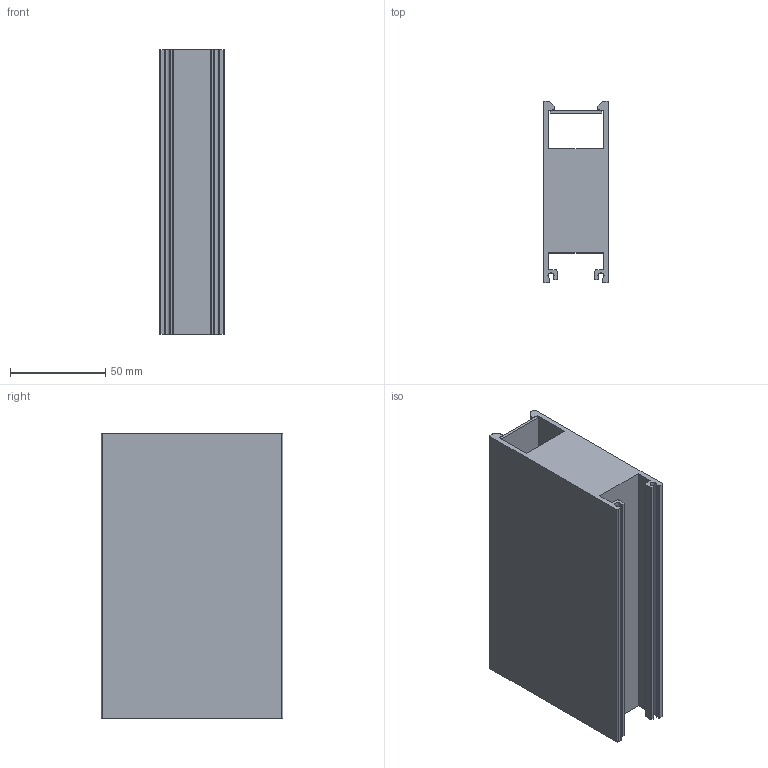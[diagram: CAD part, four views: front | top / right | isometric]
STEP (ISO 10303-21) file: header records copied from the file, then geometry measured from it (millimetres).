
FILE_DESCRIPTION(/* description */ (''),/* implementation_level */ '2;1');
FILE_NAME(/* name */ 'Evelo S Straight Blank Assembly.stp',/* time_stamp */ '2024-09-20T17:28:06+10:00',/* author */ ('Mlight Projects'),/* organization */ (''),/* preprocessor_version */ 'ST-DEVELOPER v20',/* originating_system */ 'Autodesk Inventor 2024',/* authorisation */ '');
FILE_SCHEMA (('AUTOMOTIVE_DESIGN { 1 0 10303 214 3 1 1 }'));
Length unit declared in the file: millimetre
Products named in the file (3): Evelo S Straight Optics Assembly; Body R200; Blanks Straight
Assembly tree (2 placements, depth 2):
  Evelo S Straight Optics Assembly
    Body R200
    Blanks Straight
Bounding box: 33.6 x 95.1 x 149 mm (x, y, z)
Volume: 315412.8 mm3; surface area: 68454 mm2
Topology: 2 solids, 2 shells, 66 faces, 186 edges, 124 vertices
Faces by surface type: plane 38, cylinder 28
Entity records: 2253 total; most frequent: DIRECTION 384, CARTESIAN_POINT 381, ORIENTED_EDGE 372, EDGE_CURVE 186, LINE 130, VECTOR 130, AXIS2_PLACEMENT_3D 127, VERTEX_POINT 124
